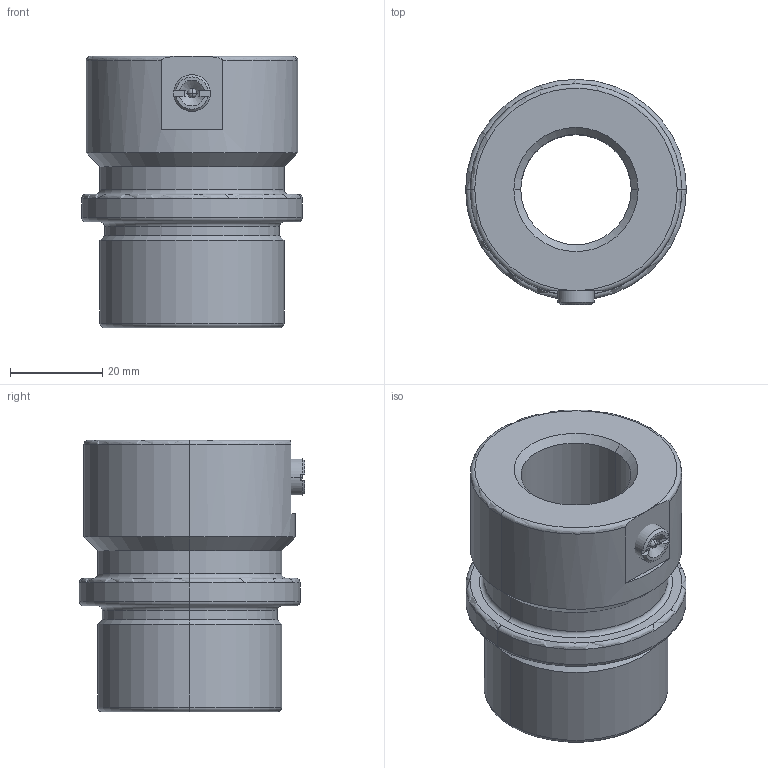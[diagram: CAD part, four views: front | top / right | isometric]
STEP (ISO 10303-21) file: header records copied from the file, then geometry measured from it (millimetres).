
FILE_DESCRIPTION(('CATIA V5 STEP Exchange'),'2;1');
FILE_NAME('C:\Users\Utente\Desktop\IO LAVORO\3D X SITO CF\X SITO\744\744-24.stp','2020-12-23T21:22:24+00:00',('none'),('none'),'CATIA Version 5 Release 20 GA (IN-10)','CATIA V5 STEP AP203','none');
FILE_SCHEMA(('CONFIG_CONTROL_DESIGN'));
Length unit declared in the file: millimetre
Products named in the file (1): 744-24
Bounding box: 48 x 49 x 59 mm (x, y, z)
Volume: 59139.6 mm3; surface area: 15894.7 mm2
Topology: 2 solids, 2 shells, 67 faces, 154 edges, 90 vertices
Faces by surface type: cylinder 16, plane 16, cone 16, torus 15, sphere 4
Entity records: 2015 total; most frequent: CARTESIAN_POINT 527, ORIENTED_EDGE 300, DIRECTION 266, AXIS2_PLACEMENT_3D 155, EDGE_CURVE 150, VERTEX_POINT 90, CIRCLE 87, EDGE_LOOP 74
